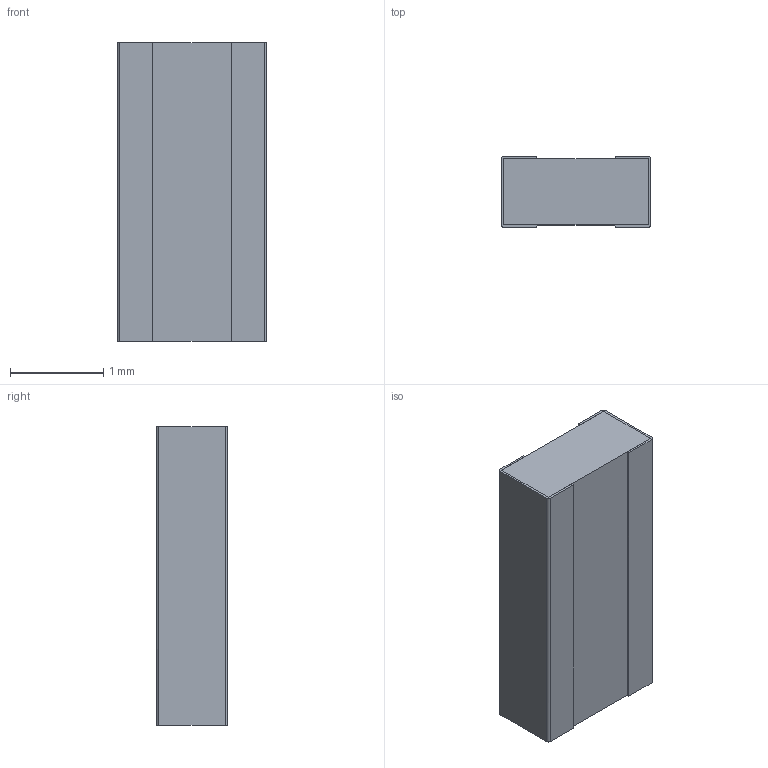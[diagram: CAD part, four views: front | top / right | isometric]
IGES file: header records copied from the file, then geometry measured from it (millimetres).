
Global section: file name: THJP0612A; native system: Autodesk Inventor LT ; preprocessor: unknown; author: Neil; date: 20191203.162031; units: inch
Bounding box: 1.6 x 0.76 x 3.2 mm (x, y, z)
Volume: 3.8 mm3; surface area: 35.9 mm2
Topology: 3 solids, 3 shells, 30 faces, 72 edges, 48 vertices
Faces by surface type: bspline 30
